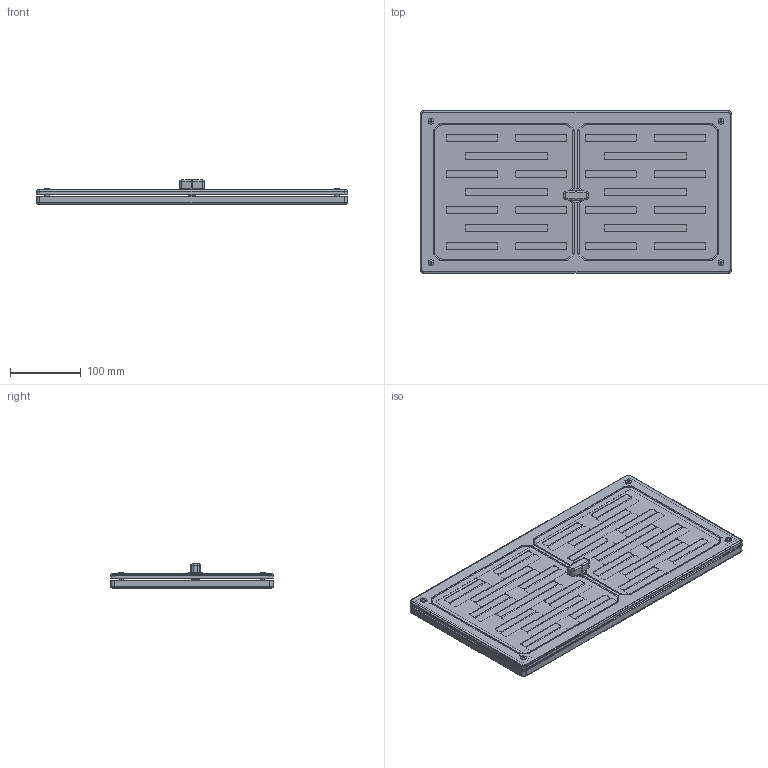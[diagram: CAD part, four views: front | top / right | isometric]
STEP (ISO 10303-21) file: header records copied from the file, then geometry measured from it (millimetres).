
FILE_DESCRIPTION (( 'STEP AP203' ), '1' );
FILE_NAME ('DA-102_silver.STEP', '2013-11-07T01:58:45', ( 'SDS' ), ( 'SDS' ), 'SwSTEP 2.0', 'SolidWorks 2002296', '' );
FILE_SCHEMA (( 'CONFIG_CONTROL_DESIGN' ));
Products named in the file (12): DA-102_silver1_蹬怮椔; DA-102_silver3_蹬怮椔; DA-102_silver4_蹬怮椔; DA-102_silver5_蹬怮椔; DA-102_silver6_蹬怮椔; DA-102_silver8_蹬怮椔; DA-102_silver7_蹬怮椔; DA-102_silver; DA-102_silver10_蹬怮椔; DA-102_silver11_蹬怮椔; DA-102_silver9_蹬怮椔; DA-102_silver2_蹬怮椔
Assembly tree (11 placements, depth 2):
  DA-102_silver
    DA-102_silver10_蹬怮椔
    DA-102_silver9_蹬怮椔
    DA-102_silver8_蹬怮椔
    DA-102_silver3_蹬怮椔
    DA-102_silver1_蹬怮椔
    DA-102_silver4_蹬怮椔
    DA-102_silver6_蹬怮椔
    DA-102_silver7_蹬怮椔
    DA-102_silver11_蹬怮椔
    DA-102_silver5_蹬怮椔
    DA-102_silver2_蹬怮椔
Bounding box: 440 x 230 x 34 mm (x, y, z)
Volume: 233865.3 mm3; surface area: 577474.1 mm2
Topology: 10 solids, 1826 shells, 3069 faces, 10611 edges, 9406 vertices
Faces by surface type: plane 2302, cylinder 436, bspline 235, cone 96
Entity records: 143141 total; most frequent: CARTESIAN_POINT 53411, DIRECTION 16832, ORIENTED_EDGE 13942, EDGE_CURVE 10603, VERTEX_POINT 9406, VECTOR 8998, LINE 8998, AXIS2_PLACEMENT_3D 3917
